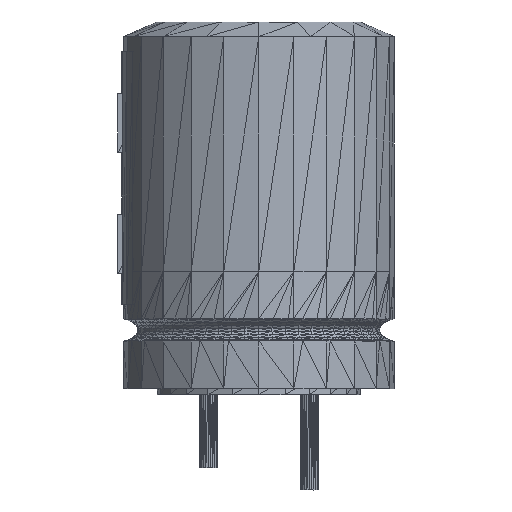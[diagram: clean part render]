
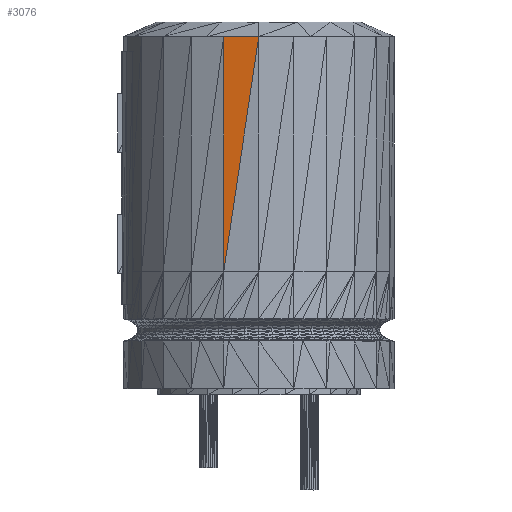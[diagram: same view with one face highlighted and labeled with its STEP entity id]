
A CAD part, front view. The second image highlights one B-rep face of the part: STEP entity #3076.
In plain terms, the highlighted planar face has unit normal (-0.131, -0.991, 0).
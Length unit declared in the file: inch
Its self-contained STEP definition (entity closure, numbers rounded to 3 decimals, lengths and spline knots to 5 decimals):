
#2276=CARTESIAN_POINT('',(0.,-0.1876,0.49558));
#2277=VERTEX_POINT('',#2276);
#2299=CARTESIAN_POINT('',(-0.04853,-0.18121,0.49558));
#2300=VERTEX_POINT('',#2299);
#2301=CARTESIAN_POINT('',(0.,-0.1876,0.49558));
#2302=DIRECTION('',(-0.991,0.131,0.));
#2303=VECTOR('',#2302,0.04894);
#2304=LINE('',#2301,#2303);
#2305=EDGE_CURVE('',#2277,#2300,#2304,.T.);
#3043=CARTESIAN_POINT('',(-0.04852,-0.18114,0.17059));
#3044=VERTEX_POINT('',#3043);
#3045=CARTESIAN_POINT('',(-0.04853,-0.18115,0.17059));
#3046=DIRECTION('',(0.148,-0.02,0.989));
#3047=VECTOR('',#3046,0.32866);
#3048=LINE('',#3045,#3047);
#3049=EDGE_CURVE('',#3044,#2277,#3048,.T.);
#3061=CARTESIAN_POINT('',(0.,-0.1876,0.49558));
#3062=DIRECTION('',(0.131,0.991,0.));
#3063=DIRECTION('',(0.991,-0.131,0.));
#3064=AXIS2_PLACEMENT_3D('',#3061,#3062,#3063);
#3065=PLANE('',#3064);
#3066=ORIENTED_EDGE('',*,*,#2305,.T.);
#3067=CARTESIAN_POINT('',(-0.04853,-0.18115,0.17059));
#3068=DIRECTION('',(0.,0.,1.));
#3069=VECTOR('',#3068,0.32499);
#3070=LINE('',#3067,#3069);
#3071=EDGE_CURVE('',#3044,#2300,#3070,.T.);
#3072=ORIENTED_EDGE('',*,*,#3071,.F.);
#3073=ORIENTED_EDGE('',*,*,#3049,.T.);
#3074=EDGE_LOOP('',(#3066,#3072,#3073));
#3075=FACE_BOUND('',#3074,.T.);
#3076=ADVANCED_FACE('',(#3075),#3065,.F.);
